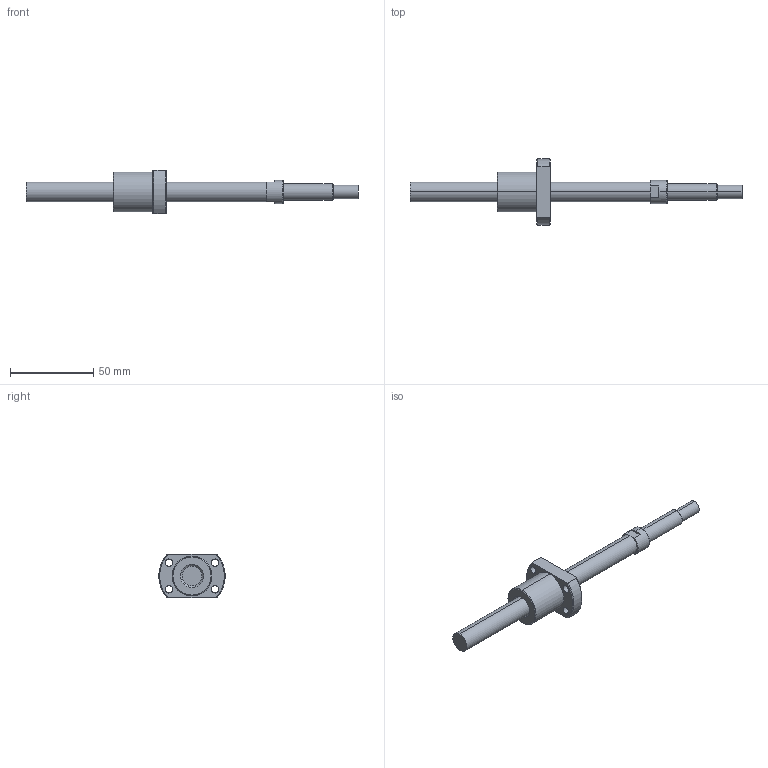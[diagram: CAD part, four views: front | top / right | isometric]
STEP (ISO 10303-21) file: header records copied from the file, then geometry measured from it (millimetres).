
FILE_DESCRIPTION (( 'STEP AP214' ), '1' );
FILE_NAME ('NSGF1205-140R200C_A_X.STEP', '2026-08-25T19:18:25', ( '' ), ( '' ), 'SwSTEP 2.0', 'SolidWorks 2025', '' );
FILE_SCHEMA (( 'AUTOMOTIVE_DESIGN' ));
Length unit declared in the file: millimetre
Products named in the file (3): NSG1205Z-140R20029_(T-S_T-A_2)-2^NSGF1205-140R200C_A_X; NSGF1205-140R200C_A_X; NSGF1205Z-1_4^NSGF1205-140R200C_A_X
Assembly tree (2 placements, depth 2):
  NSGF1205-140R200C_A_X
    NSG1205Z-140R20029_(T-S_T-A_2)-2^NSGF1205-140R200C_A_X
    NSGF1205Z-1_4^NSGF1205-140R200C_A_X
Bounding box: 200 x 39.88 x 26 mm (x, y, z)
Volume: 33501 mm3; surface area: 13631 mm2
Topology: 2 solids, 2 shells, 54 faces, 124 edges, 78 vertices
Faces by surface type: cylinder 24, plane 16, cone 12, torus 2
Entity records: 1682 total; most frequent: DIRECTION 302, CARTESIAN_POINT 285, ORIENTED_EDGE 248, AXIS2_PLACEMENT_3D 127, EDGE_CURVE 124, VERTEX_POINT 78, EDGE_LOOP 68, CIRCLE 68
